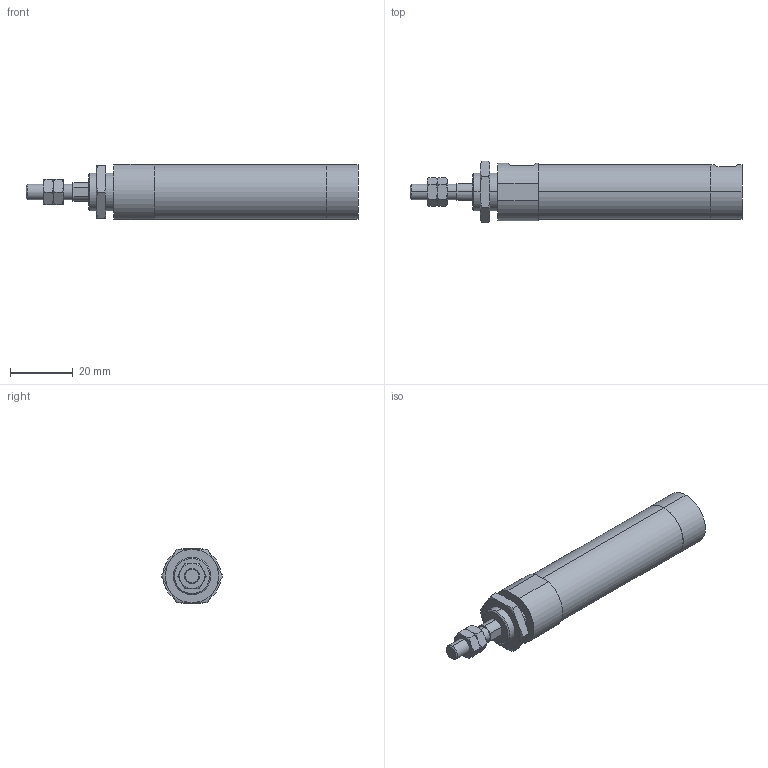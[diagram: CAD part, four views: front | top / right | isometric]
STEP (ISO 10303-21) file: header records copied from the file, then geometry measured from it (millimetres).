
FILE_DESCRIPTION (( 'STEP AP203' ), '1' );
FILE_NAME ('ZGU2-16-30-N.STEP', '2016-03-31T00:59:17', ( '' ), ( '' ), 'SwSTEP 2.0', 'SolidWorks 2014', '' );
FILE_SCHEMA (( 'CONFIG_CONTROL_DESIGN' ));
Length unit declared in the file: millimetre
Products named in the file (4): ZGU2-16-30-N; ZGU2-16-30
Assembly tree (4 placements, depth 2):
  ZGU2-16-30-N
    ZGU2-16-30
    (unnamed)  x2
    (unnamed)
Bounding box: 106 x 19.63 x 17.6 mm (x, y, z)
Volume: 20725.7 mm3; surface area: 6686.1 mm2
Topology: 4 solids, 4 shells, 108 faces, 235 edges, 140 vertices
Faces by surface type: plane 41, torus 36, cylinder 23, cone 8
Entity records: 3055 total; most frequent: CARTESIAN_POINT 800, DIRECTION 387, ORIENTED_EDGE 366, EDGE_CURVE 183, AXIS2_PLACEMENT_3D 163, VERTEX_POINT 112, EDGE_LOOP 99, FACE_OUTER_BOUND 86
